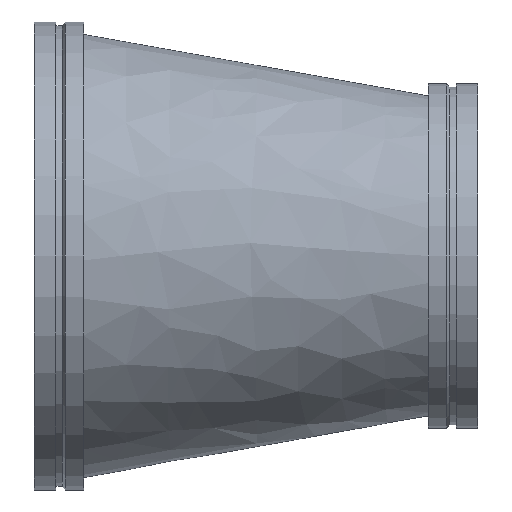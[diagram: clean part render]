
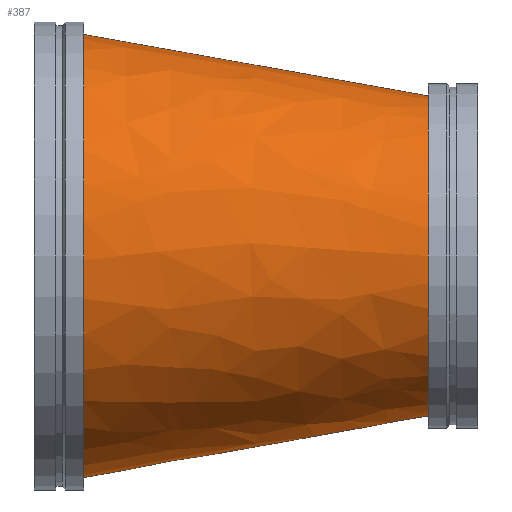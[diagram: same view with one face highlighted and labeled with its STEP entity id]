
A CAD part, front view. The second image highlights one B-rep face of the part: STEP entity #387.
In plain terms, the highlighted free-form (B-spline) face has degree [1, 2] with [2, 9] control points.
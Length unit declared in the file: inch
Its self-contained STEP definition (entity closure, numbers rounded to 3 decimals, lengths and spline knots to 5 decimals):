
#46=B_SPLINE_CURVE_WITH_KNOTS('',1,(#747,#748),.UNSPECIFIED.,.F.,.F.,(2,
2),(-1.60742,-0.0052),.UNSPECIFIED.);
#48=(
BOUNDED_SURFACE()
B_SPLINE_SURFACE(1,2,((#729,#730,#731,#732,#733,#734,#735,#736,#737),(#738,
#739,#740,#741,#742,#743,#744,#745,#746)),.UNSPECIFIED.,.F.,.T.,.F.)
B_SPLINE_SURFACE_WITH_KNOTS((2,2),(3,2,2,2,3),(-0.17321,1.72877),
(-3.14159,-1.5708,0.,1.5708,3.14159),
 .UNSPECIFIED.)
GEOMETRIC_REPRESENTATION_ITEM()
RATIONAL_B_SPLINE_SURFACE(((1.,0.707,1.,0.707,1.,
0.707,1.,0.707,1.),(1.,0.707,1.,0.707,
1.,0.707,1.,0.707,1.)))
REPRESENTATION_ITEM('')
SURFACE()
);
#98=FACE_OUTER_BOUND('',#120,.T.);
#120=EDGE_LOOP('',(#321,#322,#323,#324,#325,#326));
#129=CIRCLE('',#415,13.);
#130=CIRCLE('',#416,13.);
#153=CIRCLE('',#450,18.);
#154=CIRCLE('',#451,18.);
#166=VERTEX_POINT('',#628);
#167=VERTEX_POINT('',#629);
#190=VERTEX_POINT('',#695);
#191=VERTEX_POINT('',#696);
#203=EDGE_CURVE('',#166,#167,#129,.T.);
#204=EDGE_CURVE('',#167,#166,#130,.T.);
#235=EDGE_CURVE('',#190,#191,#153,.T.);
#236=EDGE_CURVE('',#191,#190,#154,.T.);
#243=EDGE_CURVE('',#167,#191,#46,.T.);
#321=ORIENTED_EDGE('',*,*,#203,.T.);
#322=ORIENTED_EDGE('',*,*,#243,.T.);
#323=ORIENTED_EDGE('',*,*,#236,.T.);
#324=ORIENTED_EDGE('',*,*,#235,.T.);
#325=ORIENTED_EDGE('',*,*,#243,.F.);
#326=ORIENTED_EDGE('',*,*,#204,.T.);
#387=ADVANCED_FACE('',(#98),#48,.F.);
#415=AXIS2_PLACEMENT_3D('',#630,#486,#487);
#416=AXIS2_PLACEMENT_3D('',#631,#488,#489);
#450=AXIS2_PLACEMENT_3D('',#697,#564,#565);
#451=AXIS2_PLACEMENT_3D('',#698,#566,#567);
#486=DIRECTION('center_axis',(-1.,0.,0.));
#487=DIRECTION('ref_axis',(0.,-1.,0.));
#488=DIRECTION('center_axis',(-1.,0.,0.));
#489=DIRECTION('ref_axis',(0.,-1.,0.));
#564=DIRECTION('center_axis',(1.,0.,0.));
#565=DIRECTION('ref_axis',(0.,1.,0.));
#566=DIRECTION('center_axis',(1.,0.,0.));
#567=DIRECTION('ref_axis',(0.,1.,0.));
#628=CARTESIAN_POINT('',(32.,-18.,0.));
#629=CARTESIAN_POINT('',(32.,-5.39004,12.99415));
#630=CARTESIAN_POINT('Origin',(32.,-5.,0.));
#631=CARTESIAN_POINT('Origin',(32.,-5.,0.));
#695=CARTESIAN_POINT('',(4.,18.,0.));
#696=CARTESIAN_POINT('',(4.,-0.54005,17.9919));
#697=CARTESIAN_POINT('Origin',(4.,0.,0.));
#698=CARTESIAN_POINT('Origin',(4.,0.,0.));
#729=CARTESIAN_POINT('Ctrl Pts',(0.88215,0.,
18.5484));
#730=CARTESIAN_POINT('Ctrl Pts',(-2.23569,-18.,18.5484));
#731=CARTESIAN_POINT('Ctrl Pts',(-2.23569,-18.,0.));
#732=CARTESIAN_POINT('Ctrl Pts',(-2.23569,-18.,-18.5484));
#733=CARTESIAN_POINT('Ctrl Pts',(0.88215,0.,
-18.5484));
#734=CARTESIAN_POINT('Ctrl Pts',(4.,18.,-18.5484));
#735=CARTESIAN_POINT('Ctrl Pts',(4.,18.,0.));
#736=CARTESIAN_POINT('Ctrl Pts',(4.,18.,18.5484));
#737=CARTESIAN_POINT('Ctrl Pts',(0.88215,0.,
18.5484));
#738=CARTESIAN_POINT('Ctrl Pts',(34.12059,-5.75736,12.61564));
#739=CARTESIAN_POINT('Ctrl Pts',(32.,-18.,12.61564));
#740=CARTESIAN_POINT('Ctrl Pts',(32.,-18.,0.));
#741=CARTESIAN_POINT('Ctrl Pts',(32.,-18.,-12.61564));
#742=CARTESIAN_POINT('Ctrl Pts',(34.12059,-5.75736,-12.61564));
#743=CARTESIAN_POINT('Ctrl Pts',(36.24119,6.48529,-12.61564));
#744=CARTESIAN_POINT('Ctrl Pts',(36.24119,6.48529,0.));
#745=CARTESIAN_POINT('Ctrl Pts',(36.24119,6.48529,12.61564));
#746=CARTESIAN_POINT('Ctrl Pts',(34.12059,-5.75736,12.61564));
#747=CARTESIAN_POINT('Ctrl Pts',(32.,-5.39004,12.99415));
#748=CARTESIAN_POINT('Ctrl Pts',(4.,-0.54005,17.9919));
